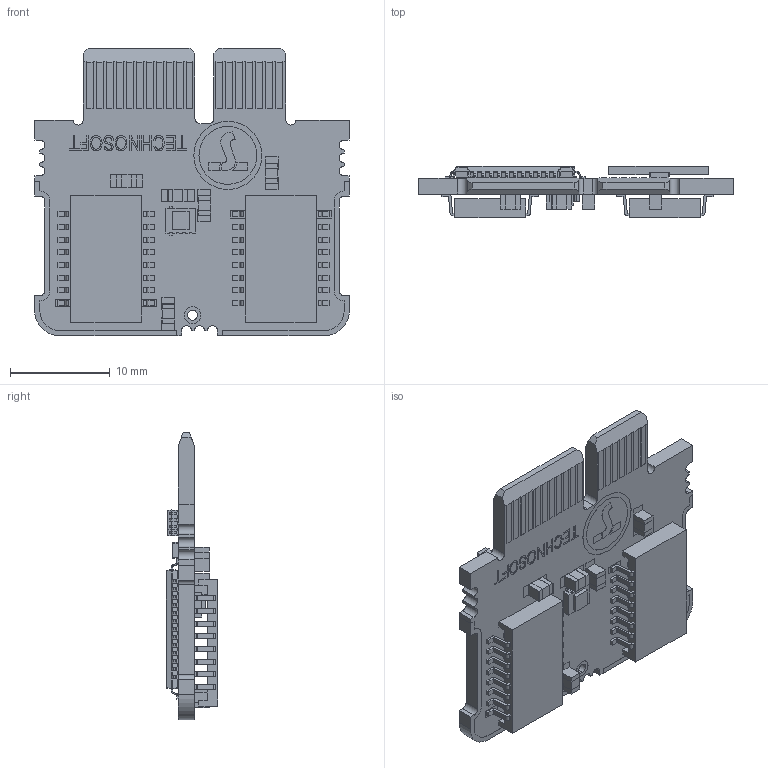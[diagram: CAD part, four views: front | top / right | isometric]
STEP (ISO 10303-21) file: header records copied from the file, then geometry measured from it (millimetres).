
FILE_DESCRIPTION (( 'STEP AP214' ), '1' );
FILE_NAME ('P064.0002-EtherCAT.VX.v20A.STEP', '2025-02-13T13:45:18', ( '' ), ( '' ), 'SwSTEP 2.0', 'SolidWorks 2017', '' );
FILE_SCHEMA (( 'AUTOMOTIVE_DESIGN' ));
Length unit declared in the file: millimetre
Products named in the file (1): P064.0002-EtherCAT.VX.v20A
Bounding box: 31.52 x 5.14 x 28.81 mm (x, y, z)
Surface area: 2704.4 mm2 (no closed solid volume)
Topology: 0 solids, 52 shells, 1603 faces, 5986 edges, 4300 vertices
Faces by surface type: plane 1203, cylinder 331, bspline 69
Entity records: 86497 total; most frequent: CARTESIAN_POINT 19197, DIRECTION 9815, ORIENTED_EDGE 9639, EDGE_CURVE 5986, VECTOR 4627, LINE 4627, VERTEX_POINT 4300, AXIS2_PLACEMENT_3D 2594
